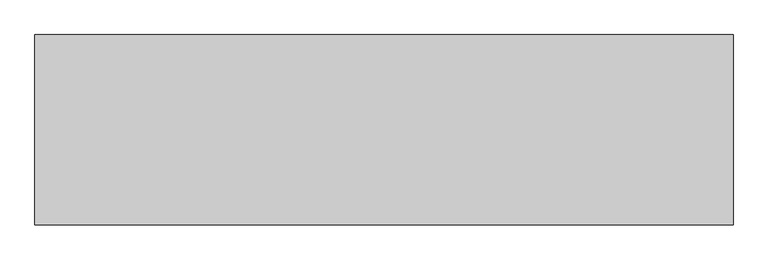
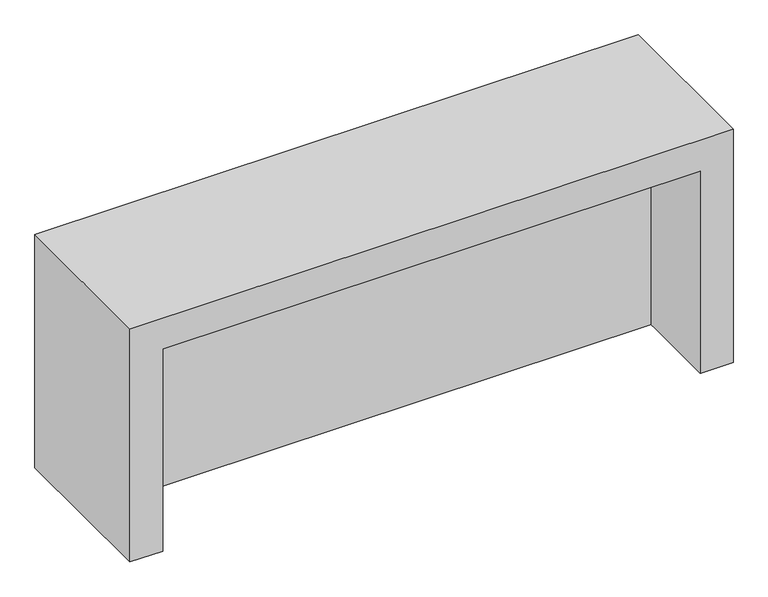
"""IFC4 building model written with IfcOpenShell, lengths in millimetres: furniture geometry, C08 Mesa circulación simple : C08 Mesa circulación simple."""

from ifc_helpers import new_model, si_unit, frame, origin, origin_with_axes, place, context, project, spatial, polyline, outline, extrude, source, transform, mapped, element, save


def furniture_ed805c17(model_context):
    return source(origin(), model_context, "Body", "SweptSolid", [
        extrude(outline(polyline([(980.0, -75.0), (980.0, -155.0), (-980.0, -155.0), (-980.0, -75.0), (980.0, -75.0)])), origin_with_axes(), (0.0, 0.0, 1.0), 780.0),
        extrude(outline(polyline([(900.0, -1100.0), (0.0, -1100.0), (0.0, -980.0), (780.0, -980.0), (780.0, 980.0), (0.0, 980.0), (0.0, 1100.0), (900.0, 1100.0), (900.0, -1100.0)])), frame((0.0, -465.0, 0.0), z_axis=(0.0, 1.0, 0.0), x_axis=(0.0, 0.0, 1.0)), (0.0, 0.0, 1.0), 600.0),
    ])


if __name__ == "__main__":
    model = new_model("IFC4")
    model_context = context("Model", 3, world=origin())
    ifc_project = project(units=[si_unit("LENGTHUNIT", "METRE", prefix="MILLI")], contexts=[model_context])
    site = spatial("IfcSite", under=ifc_project)
    building = spatial("IfcBuilding", under=site)
    placement = place(None, origin())
    furniture_shape = furniture_ed805c17(model_context)
    element("IfcFurniture", 1, ObjectType="C08 Mesa circulación simple : C08 Mesa circulación simple", at=placement, inside=building, context=model_context, shape_type="MappedRepresentation", body=[
        mapped(furniture_shape, transform((0.0, 0.0, 0.0), x_axis=(1.0, 0.0, 0.0), y_axis=(0.0, 1.0, 0.0), z_axis=(0.0, 0.0, 1.0))),
    ])
    save(model, "model.ifc")
